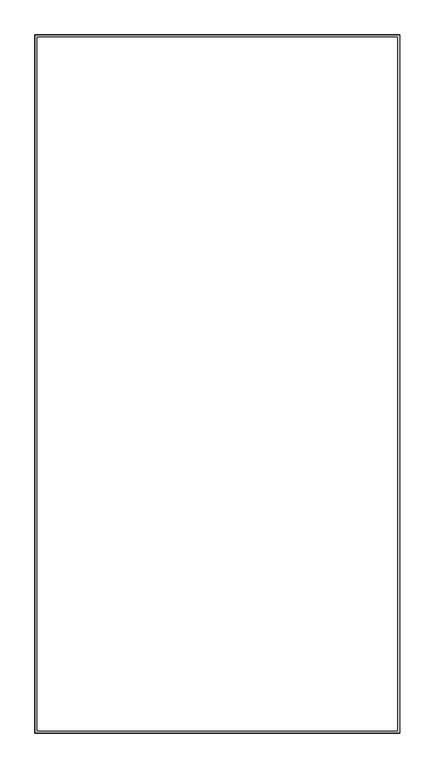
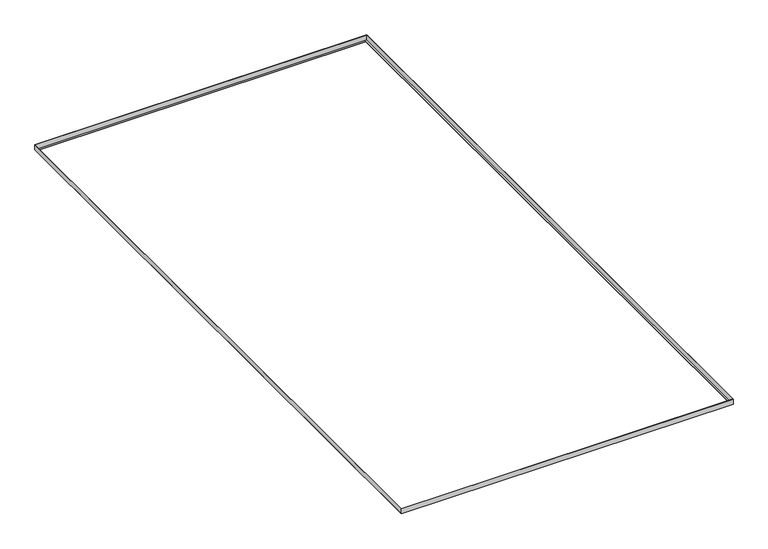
"""IFC4 building model written with IfcOpenShell, lengths in millimetres: beam geometry, SS7801 HEMMED EDGE MOLDING : SS7801 HEMMED EDGE MOLDING."""

import ifcopenshell
import ifcopenshell.guid

model = None  # the IFC model being written
_history = None  # IfcOwnerHistory: only IFC2X3 demands one
_inside = {}  # id of a spatial element -> (the spatial element, [elements in it])
_under = {}  # id of a project, library or spatial element -> (it, [spatial elements below it])
_declared = {}  # id of a project -> (the project, [libraries it declares])
_typed = {}  # id of a type object -> (the type object, [elements of that type])
_made_of = {}  # id of a material, layer set ... -> (it, [elements and type objects made of it])


def new_model(schema):
    """Start an empty IFC model of exactly this schema.

    Asked for "IFC4X3", IfcOpenShell would pick the latest addendum, in which some entities
    have other attributes; the version numbers below select the first issue.
    IFC2X3 requires an IfcOwnerHistory on every rooted entity: one is made here for all.
    """
    global model, _history
    if schema == "IFC4X3":
        model = ifcopenshell.file(schema_version=(4, 3, 0, 0))
    else:
        model = ifcopenshell.file(schema=schema)
    _inside.clear()
    _under.clear()
    _declared.clear()
    _typed.clear()
    _made_of.clear()
    _history = None
    if model.schema == "IFC2X3":
        org = make("IfcOrganization", Name="unknown")
        user = make(
            "IfcPersonAndOrganization",
            ThePerson=make("IfcPerson", FamilyName="unknown"),
            TheOrganization=org,
        )
        app = make(
            "IfcApplication",
            ApplicationDeveloper=org,
            Version="unknown",
            ApplicationFullName="unknown",
            ApplicationIdentifier="unknown",
        )
        _history = make(
            "IfcOwnerHistory",
            OwningUser=user,
            OwningApplication=app,
            ChangeAction="ADDED",
            CreationDate=0,
        )
    return model


def make(cls, **values):
    """One entity of the class cls with the attributes given. An attribute that is None is left unset."""
    return model.create_entity(
        cls, **{name: value for name, value in values.items() if value is not None}
    )


def rooted(cls, **values):
    """An entity with a GlobalId (a new one), such as an element, a storey or a relation."""
    return make(cls, GlobalId=ifcopenshell.guid.new(), OwnerHistory=_history, **values)


def si_unit(unit_type, name, prefix=None):
    """IfcSIUnit, for example si_unit("LENGTHUNIT", "METRE", prefix="MILLI")."""
    return make("IfcSIUnit", UnitType=unit_type, Prefix=prefix, Name=name)


def assignment(units):
    """IfcUnitAssignment: the units of a project."""
    return None if units is None else make("IfcUnitAssignment", Units=units)


def point(xyz):
    """IfcCartesianPoint."""
    return None if xyz is None else make("IfcCartesianPoint", Coordinates=xyz)


def direction(xyz):
    """IfcDirection."""
    return None if xyz is None else make("IfcDirection", DirectionRatios=xyz)


def frame(location, z_axis=None, x_axis=None):
    """IfcAxis2Placement3D, a coordinate frame: its origin and axes. An axis left out is left unset."""
    return make(
        "IfcAxis2Placement3D",
        Location=point(location),
        Axis=direction(z_axis),
        RefDirection=direction(x_axis),
    )


def origin():
    """The frame at (0, 0, 0) with its axes left unset."""
    return frame((0.0, 0.0, 0.0))


def place(relative_to, where):
    """IfcLocalPlacement: puts the frame where relative to a parent placement (None: the world)."""
    return make(
        "IfcLocalPlacement", PlacementRelTo=relative_to, RelativePlacement=where
    )


def context(
    kind, dimensions, precision=None, world=None, true_north=None, identifier=None
):
    """IfcGeometricRepresentationContext, for example the 3D "Model" context."""
    return make(
        "IfcGeometricRepresentationContext",
        ContextIdentifier=identifier,
        ContextType=kind,
        CoordinateSpaceDimension=dimensions,
        Precision=precision,
        WorldCoordinateSystem=world,
        TrueNorth=true_north,
    )


def project(units=None, contexts=None):
    """IfcProject with its units and contexts."""
    return rooted(
        "IfcProject",
        Name="project",
        RepresentationContexts=contexts,
        UnitsInContext=assignment(units),
    )


def spatial(cls, under=None, at=None, **own):
    """A site, building, storey or space (cls), placed at a placement, below another one or the project."""
    s = rooted(cls, ObjectPlacement=at, **own)
    if under is not None:
        _under.setdefault(under.id(), (under, []))[1].append(s)
    return s


def faces_of(points, faces, orient=None, outer=None):
    """IfcFace entities. A face is a list of loops; a loop is a list of indices into points, from 0.

    orient and outer hold one flag for each loop. By default every Orientation is true, the
    first loop of a face is its IfcFaceOuterBound and the others are IfcFaceBound.
    """
    made = []
    for i, loops in enumerate(faces):
        bounds = []
        for j, loop in enumerate(loops):
            is_outer = j == 0 if outer is None else outer[i][j]
            bounds.append(
                make(
                    "IfcFaceOuterBound" if is_outer else "IfcFaceBound",
                    Bound=make("IfcPolyLoop", Polygon=[points[k] for k in loop]),
                    Orientation=True if orient is None else orient[i][j],
                )
            )
        made.append(make("IfcFace", Bounds=bounds))
    return made


def faceted_brep(points, faces, orient=None, outer=None, voids=None):
    """IfcFacetedBrep: a solid bounded by flat faces; with voids (closed shells), ...WithVoids."""
    shared = [point(p) for p in points]
    hull = make("IfcClosedShell", CfsFaces=faces_of(shared, faces, orient, outer))
    if voids is None:
        return make("IfcFacetedBrep", Outer=hull)
    return make(
        "IfcFacetedBrepWithVoids",
        Outer=hull,
        Voids=[
            make(cls, CfsFaces=faces_of(shared, fs, o, b)) for cls, fs, o, b in voids
        ],
    )


def shape(context_of_items, identifier, shape_type, items):
    """IfcShapeRepresentation: the items that make up one representation, for example the "Body"."""
    return make(
        "IfcShapeRepresentation",
        ContextOfItems=context_of_items,
        RepresentationIdentifier=identifier,
        RepresentationType=shape_type,
        Items=items,
    )


def source(mapping_origin, context_of_items, identifier, shape_type, items):
    """IfcRepresentationMap: a shape defined once, which mapped items show again and again."""
    return make(
        "IfcRepresentationMap",
        MappingOrigin=mapping_origin,
        MappedRepresentation=shape(context_of_items, identifier, shape_type, items),
    )


def transform(
    local_origin,
    x_axis=None,
    y_axis=None,
    z_axis=None,
    scale=None,
    scale2=None,
    scale3=None,
    uniform=True,
):
    """IfcCartesianTransformationOperator3D, or its non-uniform kind. x_axis, y_axis, z_axis: its Axis1, 2, 3."""
    if uniform:
        return make(
            "IfcCartesianTransformationOperator3D",
            Axis1=direction(x_axis),
            Axis2=direction(y_axis),
            LocalOrigin=point(local_origin),
            Scale=scale,
            Axis3=direction(z_axis),
        )
    return make(
        "IfcCartesianTransformationOperator3DnonUniform",
        Axis1=direction(x_axis),
        Axis2=direction(y_axis),
        LocalOrigin=point(local_origin),
        Scale=scale,
        Axis3=direction(z_axis),
        Scale2=scale2,
        Scale3=scale3,
    )


def mapped(mapping_source, mapping_target):
    """IfcMappedItem: shows the shape of a source again, moved by a transform."""
    return make(
        "IfcMappedItem", MappingSource=mapping_source, MappingTarget=mapping_target
    )


def made_of(thing, what):
    """Note that an element or type object is made of a material, layer set ...; save() writes the relation."""
    if what is not None:
        _made_of.setdefault(what.id(), (what, []))[1].append(thing)
    return thing


def element(
    cls,
    number,
    at=None,
    inside=None,
    cuts=None,
    type_object=None,
    material=None,
    context=None,
    identifier="Body",
    shape_type=None,
    held_by="IfcProductDefinitionShape",
    body=None,
    shapes=None,
    **own,
):
    """One element of the class cls, such as IfcWall. Its Tag is "e" and its number.

    at: its placement. inside: the storey or other place that contains it. cuts: it is an
    opening in that element (IfcRelVoidsElement). A single representation is given by context,
    identifier, shape_type and body (its items); several are given by shapes. held_by: the class
    of the entity that holds the representations. save() writes the other relations.
    """
    e = rooted(cls, Tag="e%d" % number, ObjectPlacement=at, **own)
    if body is not None:
        shapes = [shape(context, identifier, shape_type, body)]
    if shapes is not None:
        e.Representation = make(held_by, Representations=shapes)
    if inside is not None:
        _inside.setdefault(inside.id(), (inside, []))[1].append(e)
    if cuts is not None:
        rooted(
            "IfcRelVoidsElement", RelatingBuildingElement=cuts, RelatedOpeningElement=e
        )
    if type_object is not None:
        _typed.setdefault(type_object.id(), (type_object, []))[1].append(e)
    return made_of(e, material)


def aggregate(whole, parts):
    """IfcRelAggregates: a whole, such as a stair, and the parts it consists of."""
    return rooted("IfcRelAggregates", RelatingObject=whole, RelatedObjects=parts)


def save(model, path):
    """Write the relations noted so far, then the file.

    IfcRelAggregates (storeys below a building ...), IfcRelContainedInSpatialStructure (elements
    in a storey), IfcRelDefinesByType, IfcRelAssociatesMaterial and IfcRelDeclares: one each for
    every whole, place, type object, material and project.
    """
    for whole, parts in _under.values():
        aggregate(whole, parts)
    for where, things in _inside.values():
        rooted(
            "IfcRelContainedInSpatialStructure",
            RelatedElements=things,
            RelatingStructure=where,
        )
    for kind, things in _typed.values():
        rooted("IfcRelDefinesByType", RelatedObjects=things, RelatingType=kind)
    for what, things in _made_of.values():
        rooted("IfcRelAssociatesMaterial", RelatedObjects=things, RelatingMaterial=what)
    for by, libraries in _declared.values():
        rooted("IfcRelDeclares", RelatingContext=by, RelatedDefinitions=libraries)
    model.write(path)


def beam_b98c3e7d(model_context):
    return source(origin(), model_context, "Body", "Brep", [
        faceted_brep([(-7592.9186437, 11995.9222731, 3355.6966054), (-7592.9186437, 11995.9222731, 3454.4), (-7592.9186437, 156.8566481, 3454.4), (-7592.9186437, 156.8566481, 3355.6966054), (-7633.0030187, 11955.8378981, 3357.6809804), (-7633.0030187, 11955.8378981, 3355.6966054), (-7633.0030187, 196.9410231, 3355.6966054), (-7633.0030187, 196.9410231, 3357.6809804), (-7594.9030187, 11993.9378981, 3454.4), (-7594.9030187, 11993.9378981, 3357.6809804), (-7594.9030187, 158.8410231, 3357.6809804), (-7594.9030187, 158.8410231, 3454.4), (-13778.9842687, 156.8566481, 3355.6966054), (-13778.9842687, 156.8566481, 3454.4), (-13778.9842687, 11995.9222731, 3454.4), (-13778.9842687, 11995.9222731, 3355.6966054), (-13738.8998937, 196.9410231, 3357.6809804), (-13738.8998937, 196.9410231, 3355.6966054), (-13738.8998937, 11955.8378981, 3355.6966054), (-13738.8998937, 11955.8378981, 3357.6809804), (-13776.9998937, 158.8410231, 3454.4), (-13776.9998937, 158.8410231, 3357.6809804), (-13776.9998937, 11993.9378981, 3357.6809804), (-13776.9998937, 11993.9378981, 3454.4)], [[[0, 1, 2, 3]], [[4, 5, 6, 7]], [[8, 9, 10, 11]], [[12, 13, 14, 15]], [[16, 17, 18, 19]], [[20, 21, 22, 23]], [[15, 14, 1, 0]], [[19, 18, 5, 4]], [[23, 22, 9, 8]], [[3, 2, 13, 12]], [[12, 15, 0, 3], [17, 6, 5, 18]], [[7, 6, 17, 16]], [[21, 10, 9, 22], [16, 19, 4, 7]], [[11, 10, 21, 20]], [[13, 2, 1, 14], [20, 23, 8, 11]]]),
    ])


if __name__ == "__main__":
    model = new_model("IFC4")
    model_context = context("Model", 3, world=origin())
    ifc_project = project(units=[si_unit("LENGTHUNIT", "METRE", prefix="MILLI")], contexts=[model_context])
    site = spatial("IfcSite", under=ifc_project)
    building = spatial("IfcBuilding", under=site)
    placement = place(None, origin())
    beam_shape = beam_b98c3e7d(model_context)
    element("IfcBeam", 1, ObjectType="SS7801 HEMMED EDGE MOLDING : SS7801 HEMMED EDGE MOLDING", at=placement, inside=building, context=model_context, shape_type="MappedRepresentation", body=[
        mapped(beam_shape, transform((0.0, 0.0, 0.0), x_axis=(1.0, 0.0, 0.0), y_axis=(0.0, 1.0, 0.0), z_axis=(0.0, 0.0, 1.0))),
    ])
    save(model, "model.ifc")
